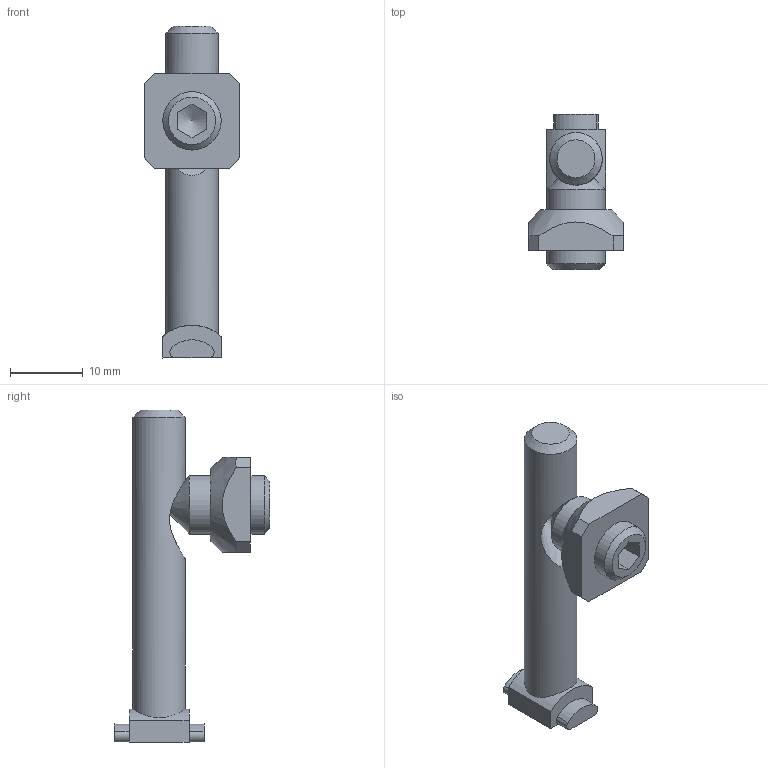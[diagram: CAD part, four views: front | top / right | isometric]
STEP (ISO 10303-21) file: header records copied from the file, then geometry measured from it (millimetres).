
FILE_DESCRIPTION((''),'2;1');
FILE_NAME('C:\Andys Backup Data\WEBSITE\DREAMWEAVER\MiniTec\Products\30 SERIES PROFILES\CAD\STEP\21.0945 MITER CONNECTOR N30.stp','2013-03-07T16:20:42',('Admin'),(''),'Autodesk Inventor 2012','Autodesk Inventor 2012','');
FILE_SCHEMA(('AUTOMOTIVE_DESIGN { 1 0 10303 214 1 1 1 1 }'));
Length unit declared in the file: millimetre
Products named in the file (4): 21.0945 MITER CONNECTOR N30; 21.1351 M8 SQUARE NUT; 21.1303 M8X14 T-SLOT BAR SET SCREW
Assembly tree (3 placements, depth 2):
  21.0945 MITER CONNECTOR N30
    21.0945 MITER CONNECTOR N30
    21.1351 M8 SQUARE NUT
    21.1303 M8X14 T-SLOT BAR SET SCREW
Bounding box: 13 x 21.3 x 45.5 mm (x, y, z)
Volume: 2913.8 mm3; surface area: 2263 mm2
Topology: 3 solids, 3 shells, 42 faces, 103 edges, 68 vertices
Faces by surface type: plane 26, cylinder 10, cone 6
Full cylindrical faces by diameter (mm): 7.2 x1, 8 x2
Entity records: 1340 total; most frequent: CARTESIAN_POINT 317, DIRECTION 194, ORIENTED_EDGE 182, EDGE_CURVE 91, AXIS2_PLACEMENT_3D 72, VERTEX_POINT 65, EDGE_LOOP 54, VECTOR 50
